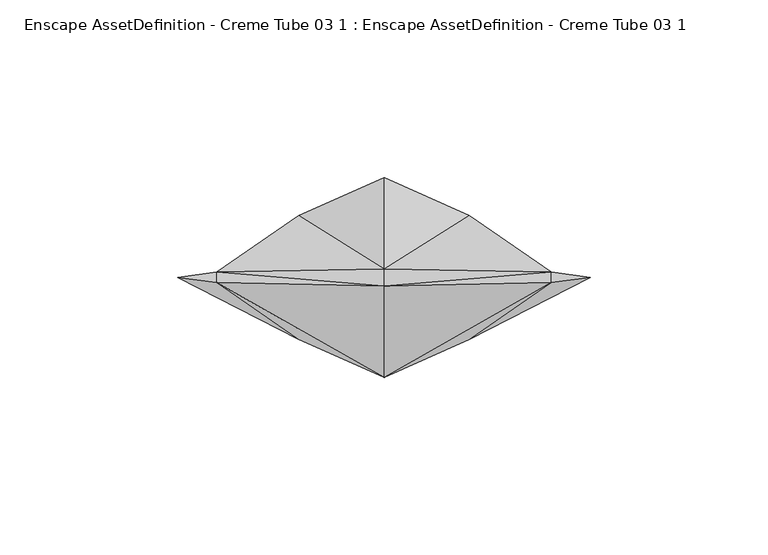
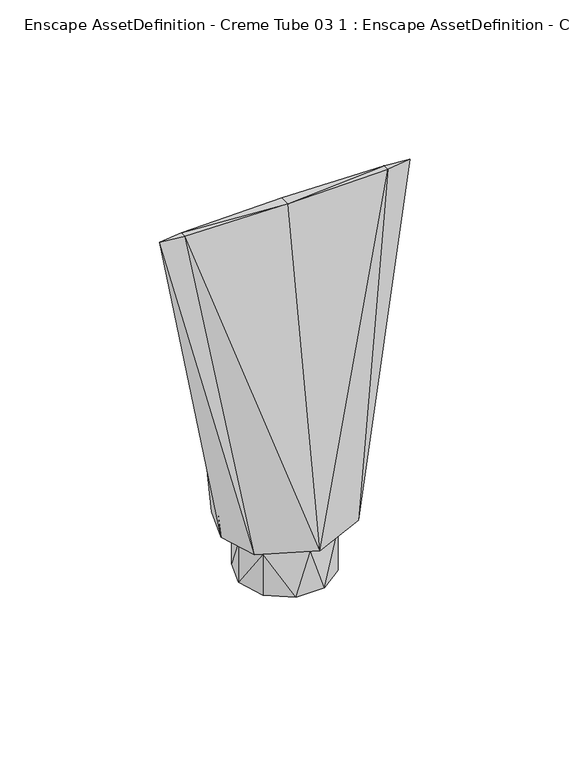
"""IFC4 building model written with IfcOpenShell, lengths in millimetres: geographic element geometry, Enscape AssetDefinition - Creme Tube 03 1 : Enscape AssetDefinition - Creme Tube 03 1."""

from ifc_helpers import new_model, si_unit, origin, place, context, project, spatial, faceted_brep, source, transform, mapped, element, save


def enscape_assetdefinition_creme_tube_03_1_enscape_79aa0b1a(model_context):
    return source(origin(), model_context, "Body", "Brep", [
        faceted_brep([(24.0049437, 17.4402241, 25.0274967), (21.5050969, 0.0, 20.0420152), (17.3982102, 12.6407184, 20.0420152), (29.6713021, 0.0, 25.0274967), (17.3982102, -12.6407184, 20.0420152), (17.3982102, 12.6407184, 0.0), (21.5050969, 0.0, 0.0), (24.0049437, -17.4402241, 25.0274967), (47.0559187, 1.4754403, 179.5119047), (58.1643544, 0.0, 179.5119047), (0.0, -28.2193385, 25.0274967), (47.0559187, -1.4754403, 179.5119047), (0.0, 2.3880138, 179.5119047), (0.0, -2.3880138, 179.5119047), (-47.0559187, -1.4754403, 179.5119047), (-47.0559187, 1.4754403, 179.5119047), (0.0, 28.2193385, 25.0274967), (-24.0049437, 17.4402241, 25.0274967), (-29.6713021, 0.0, 25.0274967), (-58.1643544, 0.0, 179.5119047), (-24.0049437, -17.4402241, 25.0274967), (-21.5050969, 0.0, 20.0420152), (-17.3982102, -12.6407184, 20.0420152), (-17.3982102, 12.6407184, 20.0420152), (-17.3982102, 12.6407184, 0.0), (-21.5050969, 0.0, 0.0), (0.0, 20.4528887, 20.0420152), (-6.6456599, 20.4528887, 0.0), (-17.3982102, -12.6407184, 0.0), (-6.6456599, -20.4528887, 0.0), (6.6456599, 20.4528887, 0.0), (17.3982102, -12.6407184, 0.0), (6.6456599, -20.4528887, 0.0), (0.0, -20.4528887, 20.0420152)], [[[0, 1, 2]], [[1, 0, 3]], [[3, 4, 1]], [[5, 1, 6]], [[1, 5, 2]], [[4, 6, 1]], [[4, 3, 7]], [[8, 3, 0]], [[3, 8, 9]], [[9, 7, 3]], [[10, 4, 7]], [[11, 10, 7]], [[7, 9, 11]], [[8, 11, 9]], [[0, 12, 8]], [[13, 8, 12]], [[8, 13, 11]], [[10, 11, 13]], [[14, 10, 13]], [[15, 13, 12]], [[13, 15, 14]], [[12, 0, 16]], [[12, 17, 15]], [[17, 12, 16]], [[15, 18, 19]], [[18, 15, 17]], [[14, 15, 19]], [[10, 14, 20]], [[19, 20, 14]], [[20, 19, 18]], [[17, 21, 18]], [[18, 22, 20]], [[22, 18, 21]], [[21, 17, 23]], [[16, 23, 17]], [[24, 21, 23]], [[21, 24, 25]], [[25, 22, 21]], [[23, 16, 26]], [[27, 23, 26]], [[23, 27, 24]], [[27, 25, 24]], [[22, 25, 28]], [[25, 29, 28]], [[5, 25, 27]], [[5, 29, 25]], [[27, 26, 30]], [[5, 27, 30]], [[16, 2, 26]], [[2, 30, 26]], [[30, 2, 5]], [[5, 6, 31]], [[5, 31, 29]], [[6, 4, 31]], [[4, 32, 31]], [[29, 31, 32]], [[4, 10, 33]], [[32, 4, 33]], [[32, 33, 29]], [[10, 22, 33]], [[22, 29, 33]], [[22, 10, 20]], [[29, 22, 28]], [[2, 16, 0]]]),
    ])


if __name__ == "__main__":
    model = new_model("IFC4")
    model_context = context("Model", 3, world=origin())
    ifc_project = project(units=[si_unit("LENGTHUNIT", "METRE", prefix="MILLI")], contexts=[model_context])
    site = spatial("IfcSite", under=ifc_project)
    building = spatial("IfcBuilding", under=site)
    placement = place(None, origin())
    enscape_assetdefinition_creme_tube_03_1_enscape_shape = enscape_assetdefinition_creme_tube_03_1_enscape_79aa0b1a(model_context)
    element("IfcGeographicElement", 1, ObjectType="Enscape AssetDefinition - Creme Tube 03 1 : Enscape AssetDefinition - Creme Tube 03 1", at=placement, inside=building, context=model_context, shape_type="MappedRepresentation", body=[
        mapped(enscape_assetdefinition_creme_tube_03_1_enscape_shape, transform((0.0, 0.0, 0.0), x_axis=(1.0, 0.0, 0.0), y_axis=(0.0, 1.0, 0.0), z_axis=(0.0, 0.0, 1.0))),
    ])
    save(model, "model.ifc")
